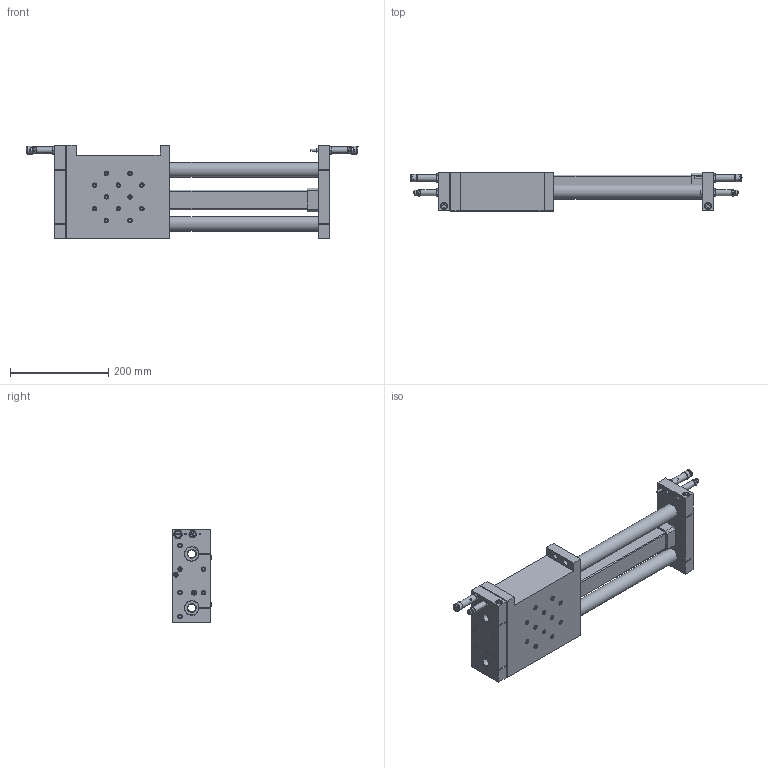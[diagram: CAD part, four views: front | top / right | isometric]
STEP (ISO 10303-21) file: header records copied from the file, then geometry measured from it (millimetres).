
FILE_DESCRIPTION((''),'2;1');
FILE_NAME('K:\L-V\GLE-B 25\inv-1\1000037.stp','2008-01-15T21:51:14',('Sascha'),(''),'Autodesk Inventor 10','Autodesk Inventor 10','');
FILE_SCHEMA(('AUTOMOTIVE_DESIGN { 1 0 10303 214 1 1 1 1 }'));
Length unit declared in the file: millimetre
Products named in the file (3): 1000037; 1000037-a; 1000037-b
Assembly tree (2 placements, depth 2):
  1000037
    1000037-a
    1000037-b
Bounding box: 675 x 80.9 x 190 mm (x, y, z)
Volume: 3890787.4 mm3; surface area: 591849.2 mm2
Topology: 2 solids, 49 shells, 843 faces, 1916 edges, 1254 vertices
Faces by surface type: plane 349, bspline 280, cone 110, cylinder 87, torus 15, sphere 2
Full cylindrical faces by diameter (mm): 1.4 x2, 2 x2, 3.6 x2, 4 x8, 4.3 x2, 5 x7, 6 x1, 7.4 x2, 7.8 x2, 8 x12, 8.5 x7, 9 x2, 9.7 x4, 10 x2, 11.5 x2, 12 x4, 13 x4, 14 x6, 14.2 x2, 16 x4, 30 x6
Entity records: 24156 total; most frequent: CARTESIAN_POINT 8936, DIRECTION 2886, ORIENTED_EDGE 2584, EDGE_LOOP 1478, EDGE_CURVE 1292, AXIS2_PLACEMENT_3D 1208, VERTEX_POINT 1046, FACE_OUTER_BOUND 843
